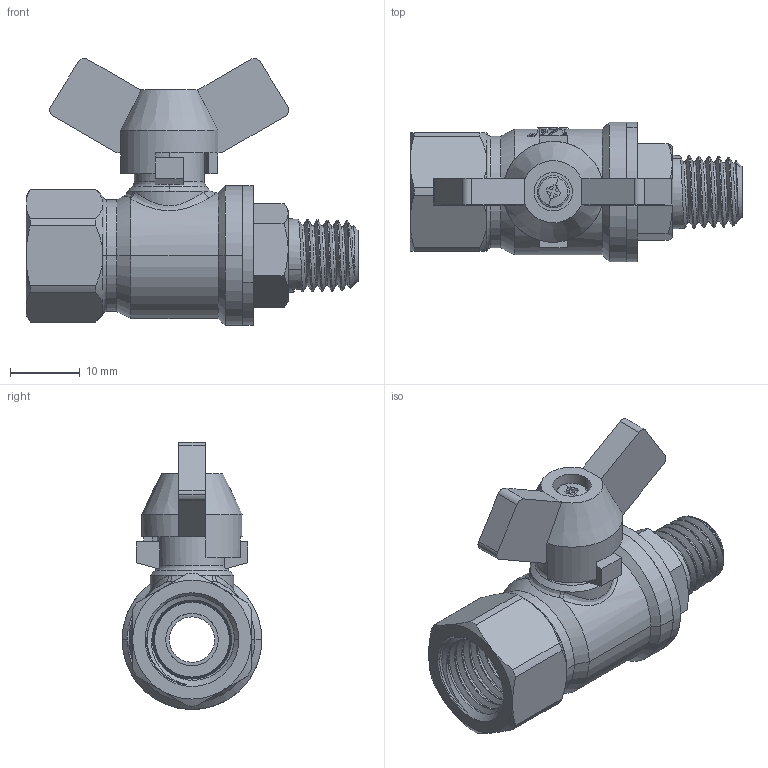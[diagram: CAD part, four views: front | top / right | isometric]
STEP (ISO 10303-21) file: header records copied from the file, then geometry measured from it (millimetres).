
FILE_DESCRIPTION(('Open CASCADE Model'),'2;1');
FILE_NAME('Open CASCADE Shape Model','2021-12-15T12:24:41',('Author'),( 'Open CASCADE'),'Open CASCADE STEP processor 7.3','Open CASCADE 7.3' ,'Unknown');
FILE_SCHEMA(('AUTOMOTIVE_DESIGN { 1 0 10303 214 1 1 1 1 }'));
Length unit declared in the file: millimetre
Products named in the file (11): Open CASCADE STEP translator 7.3 1; Open CASCADE STEP translator 7.3 1.1; Open CASCADE STEP translator 7.3 1.2; Open CASCADE STEP translator 7.3 1.3; Open CASCADE STEP translator 7.3 1.4; Open CASCADE STEP translator 7.3 1.5; Open CASCADE STEP translator 7.3 1.6; Open CASCADE STEP translator 7.3 1.7; Open CASCADE STEP translator 7.3 1.8; Open CASCADE STEP translator 7.3 1.9; Open CASCADE STEP translator 7.3 1.10
Assembly tree (10 placements, depth 2):
  Open CASCADE STEP translator 7.3 1
    Open CASCADE STEP translator 7.3 1.1
    Open CASCADE STEP translator 7.3 1.2
    Open CASCADE STEP translator 7.3 1.3
    Open CASCADE STEP translator 7.3 1.4
    Open CASCADE STEP translator 7.3 1.5
    Open CASCADE STEP translator 7.3 1.6
    Open CASCADE STEP translator 7.3 1.7
    Open CASCADE STEP translator 7.3 1.8
    Open CASCADE STEP translator 7.3 1.9
    Open CASCADE STEP translator 7.3 1.10
Bounding box: 47.5 x 20 x 38.21 mm (x, y, z)
Volume: 8872.3 mm3; surface area: 9966.1 mm2
Topology: 10 solids, 10 shells, 532 faces, 1363 edges, 875 vertices
Faces by surface type: cylinder 150, plane 150, bspline 102, cone 86, torus 34, sphere 6, revolution 4
Entity records: 85991 total; most frequent: CARTESIAN_POINT 61861, DIRECTION 3515, ORIENTED_EDGE 2718, PCURVE 2718, DEFINITIONAL_REPRESENTATION 2718, LINE 1778, VECTOR 1778, B_SPLINE_CURVE_WITH_KNOTS 1573
